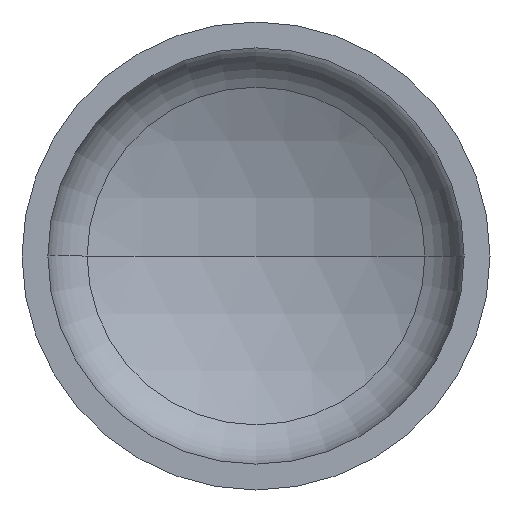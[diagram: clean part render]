
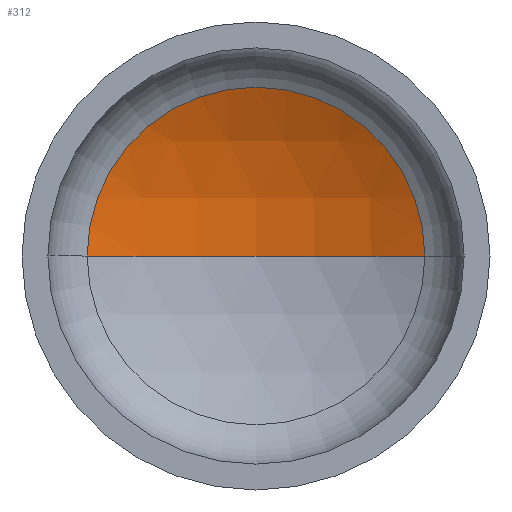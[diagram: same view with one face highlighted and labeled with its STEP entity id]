
A CAD part, front view. The second image highlights one B-rep face of the part: STEP entity #312.
In plain terms, the highlighted spherical face has radius 1360 mm.
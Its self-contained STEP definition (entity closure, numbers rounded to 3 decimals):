
#2 = FACE_OUTER_BOUND ( 'NONE', #15, .T. ) ;
#15 = EDGE_LOOP ( 'NONE', ( #187, #79, #64 ) ) ;
#16 = CIRCLE ( 'NONE', #90, 1360. ) ;
#23 = VERTEX_POINT ( 'NONE', #215 ) ;
#25 = AXIS2_PLACEMENT_3D ( 'NONE', #87, #320, #176 ) ;
#28 = VERTEX_POINT ( 'NONE', #195 ) ;
#38 = DIRECTION ( 'NONE',  ( 0., 0., -1. ) ) ;
#61 = AXIS2_PLACEMENT_3D ( 'NONE', #332, #38, #337 ) ;
#64 = ORIENTED_EDGE ( 'NONE', *, *, #236, .T. ) ;
#79 = ORIENTED_EDGE ( 'NONE', *, *, #239, .T. ) ;
#87 = CARTESIAN_POINT ( 'NONE',  ( 0., -881.827, 0. ) ) ;
#90 = AXIS2_PLACEMENT_3D ( 'NONE', #237, #170, #168 ) ;
#97 = AXIS2_PLACEMENT_3D ( 'NONE', #214, #209, #207 ) ;
#106 = SPHERICAL_SURFACE ( 'NONE', #61, 1360. ) ;
#168 = DIRECTION ( 'NONE',  ( -1., 0., 0. ) ) ;
#170 = DIRECTION ( 'NONE',  ( 0., 0., -1. ) ) ;
#176 = DIRECTION ( 'NONE',  ( 1., 0., 0. ) ) ;
#187 = ORIENTED_EDGE ( 'NONE', *, *, #372, .F. ) ;
#195 = CARTESIAN_POINT ( 'NONE',  ( -613.236, 332.068, 0. ) ) ;
#207 = DIRECTION ( 'NONE',  ( 1., 0., 0. ) ) ;
#209 = DIRECTION ( 'NONE',  ( 0., -1., 0. ) ) ;
#214 = CARTESIAN_POINT ( 'NONE',  ( 0., 332.068, 0. ) ) ;
#215 = CARTESIAN_POINT ( 'NONE',  ( 613.236, 332.068, 0. ) ) ;
#236 = EDGE_CURVE ( 'NONE', #23, #28, #311, .T. ) ;
#237 = CARTESIAN_POINT ( 'NONE',  ( 0., -881.827, 0. ) ) ;
#239 = EDGE_CURVE ( 'NONE', #289, #23, #16, .T. ) ;
#246 = CARTESIAN_POINT ( 'NONE',  ( 0., 478.173, 0. ) ) ;
#289 = VERTEX_POINT ( 'NONE', #246 ) ;
#311 = CIRCLE ( 'NONE', #97, 613.236 ) ;
#312 = ADVANCED_FACE ( 'NONE', ( #2 ), #106, .F. ) ;
#320 = DIRECTION ( 'NONE',  ( 0., 0., 1. ) ) ;
#332 = CARTESIAN_POINT ( 'NONE',  ( 0., -881.827, 0. ) ) ;
#337 = DIRECTION ( 'NONE',  ( -1., 0., 0. ) ) ;
#339 = CIRCLE ( 'NONE', #25, 1360. ) ;
#372 = EDGE_CURVE ( 'NONE', #289, #28, #339, .T. ) ;
